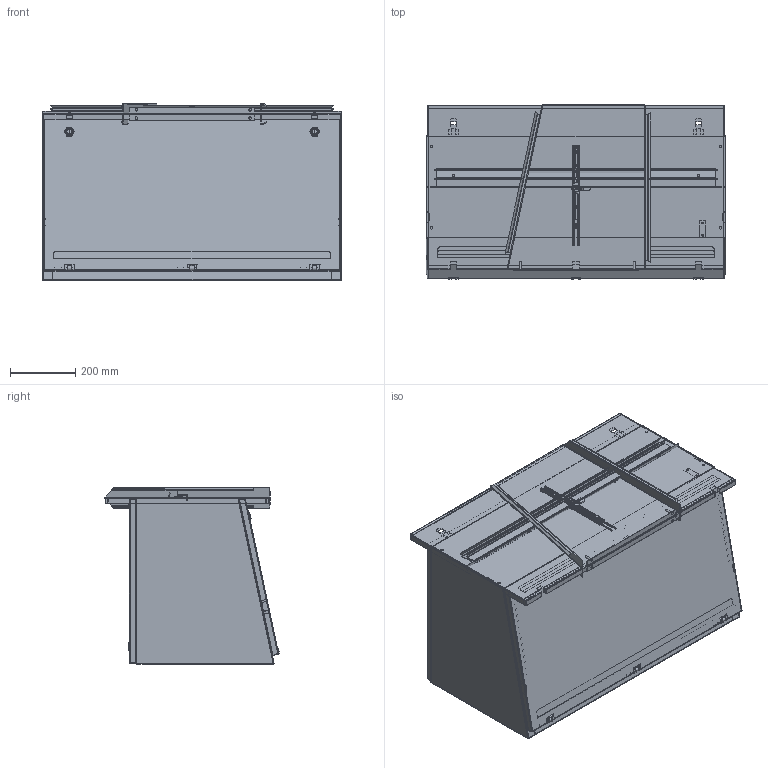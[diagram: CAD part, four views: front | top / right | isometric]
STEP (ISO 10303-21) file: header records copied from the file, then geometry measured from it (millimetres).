
FILE_DESCRIPTION( ( 'Unknown' ), '1' );
FILE_NAME( 'Q:/2000 SERIES/TURRET UNITS/WEB DRAWINGS/STEP/2CST203636.stp', 'Unknown', ( 'Unknown' ), ( 'Unknown' ), 'XStep 1.0', 'Unknown', ' ' );
FILE_SCHEMA( ( 'CONFIG_CONTROL_DESIGN' ) );
Length unit declared in the file: millimetre
Products named in the file (46): Assem1; Assem2; Assem3; Assem4; Assem5; Assem6; Assem7; Assem8; Assem9; Assem10; Assem11; Assem12; 1; 2; 3; 4; 5; 6; 7; 8; 9; 10; 11; 12; 13; 14; 15; 16; 17; 18; 19; 20; 21; 22; 23; 24; 25; 26; 27; 28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
Bounding box: 914.4 x 533.07 x 538.94 mm (x, y, z)
Volume: 12926483 mm3; surface area: 14229128.8 mm2
Topology: 157 solids, 157 shells, 3613 faces, 8763 edges, 5586 vertices
Faces by surface type: plane 2385, cylinder 947, bspline 222, cone 32, torus 21, sphere 6
Full cylindrical faces by diameter (mm): 3.175 x12, 4.763 x15, 4.826 x6, 5 x14, 5.537 x10, 5.969 x8, 6 x6, 6.096 x8, 6.299 x4, 6.35 x48, 7.137 x19, 7.925 x4, 7.938 x32, 8.331 x4, 9.804 x5, 9.83 x12, 9.931 x7, 10.312 x4, 11.1 x4, 12.7 x18, 12.751 x4, 13.335 x6, 15.875 x6, 16.002 x6, 19.5 x6, 19.939 x6, 25.4 x6
Entity records: 29506 total; most frequent: CARTESIAN_POINT 7126, DIRECTION 4098, ORIENTED_EDGE 4096, EDGE_CURVE 2048, LINE 1456, VECTOR 1456, VERTEX_POINT 1337, AXIS2_PLACEMENT_3D 1321
